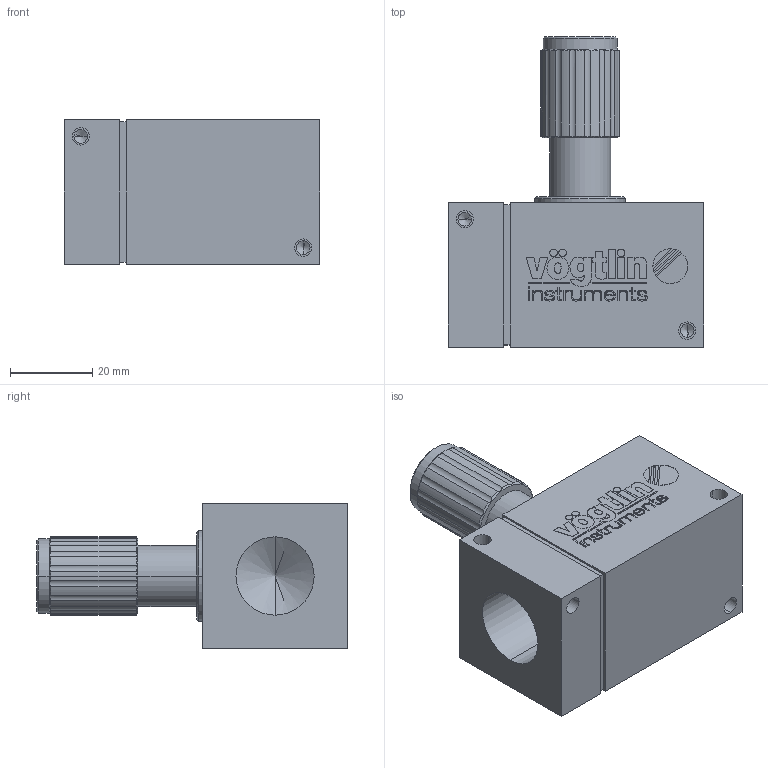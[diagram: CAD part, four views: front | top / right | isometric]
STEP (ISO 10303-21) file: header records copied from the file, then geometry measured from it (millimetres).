
FILE_DESCRIPTION (( 'STEP AP214' ), '1' );
FILE_NAME ('M-Flow 35.step', '2011-08-08T11:10:22', ( '' ), ( '' ), 'SwSTEP 2.0', 'SolidWorks 2011', '' );
FILE_SCHEMA (( 'AUTOMOTIVE_DESIGN' ));
Length unit declared in the file: millimetre
Products named in the file (1): M-Flow 35
Bounding box: 62 x 75.3 x 35 mm (x, y, z)
Volume: 74695.6 mm3; surface area: 17064.1 mm2
Topology: 1 solids, 1 shells, 427 faces, 1114 edges, 724 vertices
Faces by surface type: plane 213, bspline 111, cylinder 75, cone 28
Entity records: 17907 total; most frequent: CARTESIAN_POINT 4001, ORIENTED_EDGE 2188, DIRECTION 1602, EDGE_CURVE 1094, VERTEX_POINT 724, LINE 712, VECTOR 712, EDGE_LOOP 482
